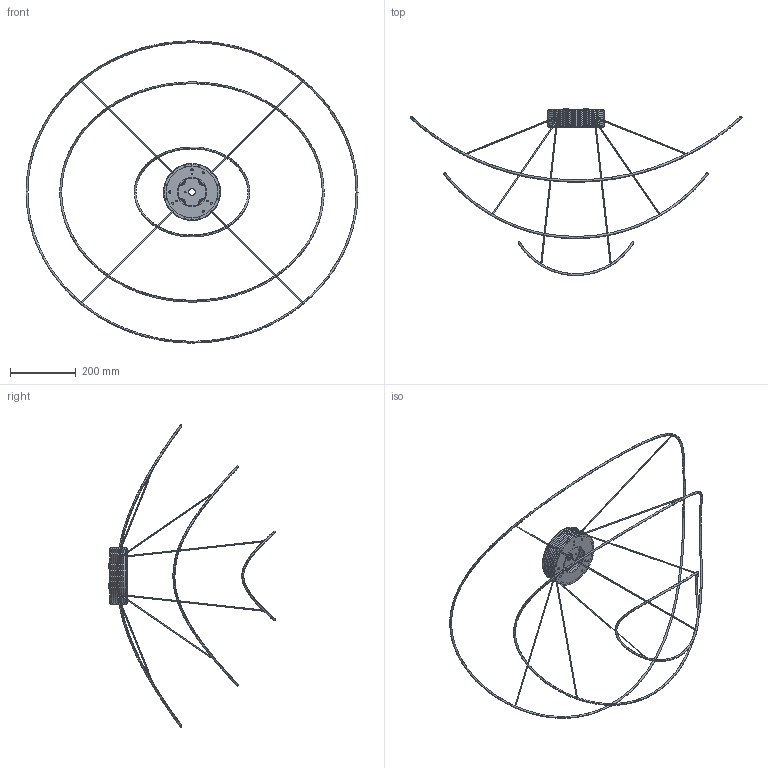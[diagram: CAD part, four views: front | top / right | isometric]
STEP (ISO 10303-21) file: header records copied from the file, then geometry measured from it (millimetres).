
FILE_DESCRIPTION (( 'STEP AP203' ), '1' );
FILE_NAME ('PLHOOPS3XXXXLED-3D.STEP', '2015-02-24T18:20:09', ( '' ), ( '' ), 'SwSTEP 2.0', 'SolidWorks 2014', '' );
FILE_SCHEMA (( 'CONFIG_CONTROL_DESIGN' ));
Length unit declared in the file: millimetre
Products named in the file (17): WSAXO018CMHH010000; WSAXO018CMHE010000; WSAXO018CMFA010000; WSAXO018CMJA014500; WSAXO018CMCA014501; WSAXO018CMHF010000; PLHOOPS-02-3D; MPLHOOPS-3D; WSAXO018CMHD010000; WSAXO018CMJC014500; WSAXO018CMCB012900; WSAXO018CMJB014500; WSAXO018CMHC010000; WSAXO018CMHB014500; WSAXO018CMHG010000; PLHOOPS3XXXXLED-3D; WSAXO018CMHB010000
Assembly tree (32 placements, depth 4):
  PLHOOPS3XXXXLED-3D
    WSAXO018CMHB014500  x6
    WSAXO018CMJC014500
      WSAXO018CMHB010000
      WSAXO018CMHH010000
      WSAXO018CMHG010000  x4
    WSAXO018CMJB014500
      WSAXO018CMHB010000
      WSAXO018CMHF010000
      WSAXO018CMHE010000  x4
    MPLHOOPS-3D
      PLHOOPS-02-3D
        WSAXO018CMFA010000
      WSAXO018CMCA014501
      WSAXO018CMCB012900
    WSAXO018CMJA014500
      WSAXO018CMHB010000
      WSAXO018CMHD010000
      WSAXO018CMHC010000  x4
Bounding box: 1012 x 509.46 x 920.88 mm (x, y, z)
Volume: 472029.7 mm3; surface area: 418971 mm2
Topology: 27 solids, 27 shells, 325 faces, 778 edges, 492 vertices
Faces by surface type: cylinder 174, torus 72, plane 39, cone 28, bspline 12
Entity records: 12541 total; most frequent: CARTESIAN_POINT 3293, DIRECTION 1706, ORIENTED_EDGE 1336, AXIS2_PLACEMENT_3D 761, EDGE_CURVE 668, CIRCLE 472, VERTEX_POINT 428, EDGE_LOOP 368
